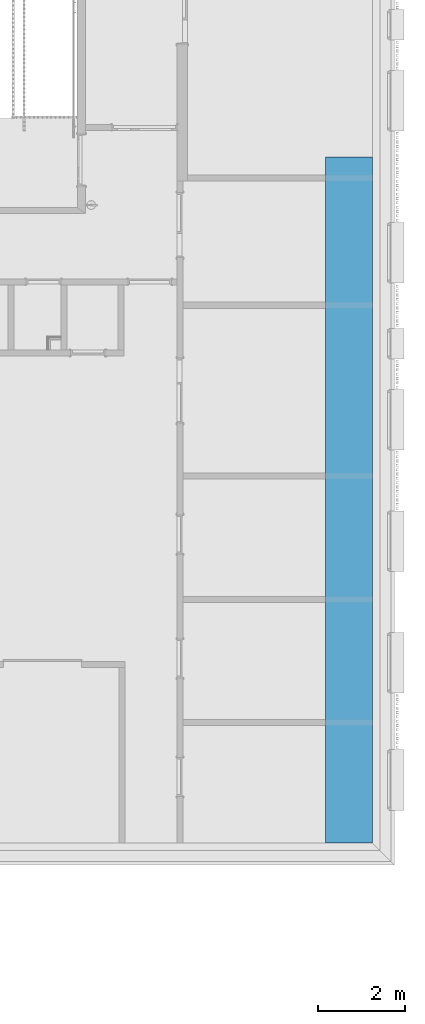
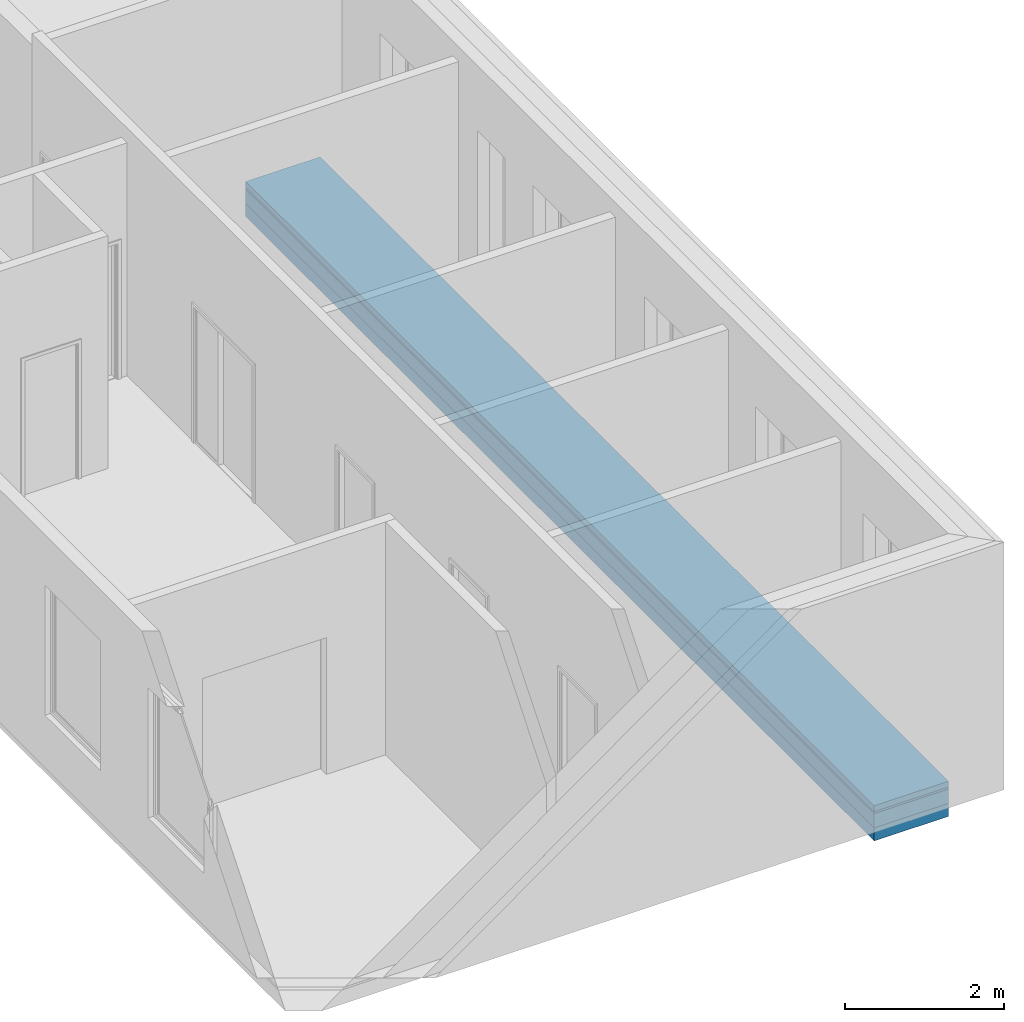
# One storey, part 37 of 100: 4 building element parts, 1 element without a shape of its own.
"""IFC2X3 building model written with IfcOpenShell, lengths in millimetres."""

from ifc_helpers import new_model, entity, si_unit, converted_unit, derived_unit, money_unit, direction, frame, origin_with_axes, place, context, subcontext, project, spatial, polyline, outline, extrude, material, type_object, element, aggregate, save


model = new_model("IFC2X3")

# Units and contexts
model_context = context("Model", 3, precision=0.01, world=origin_with_axes(), true_north=direction((0.0, 1.0)))
body_context = subcontext(model_context, "Body", "Model", "MODEL_VIEW")
ifc_project = project(units=[si_unit("LENGTHUNIT", "METRE", prefix="MILLI"), si_unit("AREAUNIT", "SQUARE_METRE"), si_unit("VOLUMEUNIT", "CUBIC_METRE"), converted_unit("PLANEANGLEUNIT", "DEGREE", entity("IfcPlaneAngleMeasure", 0.0174532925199), si_unit("PLANEANGLEUNIT", "RADIAN"), dimensions=[0, 0, 0, 0, 0, 0, 0]), si_unit("SOLIDANGLEUNIT", "STERADIAN"), money_unit("EUR"), converted_unit("TIMEUNIT", "Year", entity("IfcTimeMeasure", 31556926.0), si_unit("TIMEUNIT", "SECOND"), dimensions=[0, 0, 1, 0, 0, 0, 0]), si_unit("MASSUNIT", "GRAM", prefix="KILO"), si_unit("THERMODYNAMICTEMPERATUREUNIT", "DEGREE_CELSIUS"), si_unit("LUMINOUSINTENSITYUNIT", "LUMEN"), si_unit("ENERGYUNIT", "JOULE", prefix="MEGA"), derived_unit("THERMALCONDUCTANCEUNIT", [(si_unit("POWERUNIT", "WATT"), 1), (si_unit("LENGTHUNIT", "METRE"), -1), (si_unit("THERMODYNAMICTEMPERATUREUNIT", "KELVIN"), -1)]), derived_unit("SPECIFICHEATCAPACITYUNIT", [(si_unit("ENERGYUNIT", "JOULE"), 1), (si_unit("MASSUNIT", "GRAM", prefix="KILO"), -1), (si_unit("THERMODYNAMICTEMPERATUREUNIT", "KELVIN"), -1)]), derived_unit("MASSDENSITYUNIT", [(si_unit("MASSUNIT", "GRAM", prefix="KILO"), 1), (si_unit("VOLUMEUNIT", "CUBIC_METRE"), -1)])], contexts=[model_context])

# Site, building, storey
site_placement = place(None, origin_with_axes())
site = spatial("IfcSite", under=ifc_project, at=site_placement, Name="Politse- ja Piirivalveameti ning Päästeameti ühishoone", CompositionType="ELEMENT")
building_placement = place(site_placement, origin_with_axes())
building = spatial("IfcBuilding", under=site, at=building_placement, Name="Politse- ja Piirivalveameti ning Päästeameti ühishoone", CompositionType="ELEMENT")
storey_placement = place(building_placement, frame((0.0, 0.0, 3800.0), z_axis=(0.0, 0.0, 1.0), x_axis=(1.0, 0.0, 0.0)))
storey = spatial("IfcBuildingStorey", under=building, at=storey_placement, Name="Teine korrus", CompositionType="ELEMENT", Elevation=3800.0)

# Slab, building element parts
slab_type = type_object("IfcSlabType", Name="VL-03_Vahelagi 540", PredefinedType="NOTDEFINED")
slab_placement = place(storey_placement, frame((68580.5638285, 15802.809139, 0.0), z_axis=(0.0, 0.0, 1.0), x_axis=(1.0, 0.0, 0.0)))
slab = element("IfcSlab", 1, at=slab_placement, inside=storey, type_object=slab_type, Name="VL-03", PredefinedType="NOTDEFINED")
ifc_material_1 = material(Name="SOJ-02_Soojustus - Fiiber Kõva")
building_element_part_1_placement = place(slab_placement, origin_with_axes())
building_element_part_1 = element("IfcBuildingElementPart", 2, at=building_element_part_1_placement, material=ifc_material_1, Name="SOJ-02_Soojustus - Fiiber Kõva", context=body_context, shape_type="SweptSolid", body=[
    extrude(outline(polyline([(0.0, 0.0), (0.0, -15802.809139), (1080.00259722, -15802.809139), (1080.00259722, 0.0), (0.0, 0.0)])), frame((0.0, 0.0, -540.0), z_axis=(0.0, 0.0, 1.0), x_axis=(1.0, 0.0, 0.0)), (0.0, 0.0, 1.0), 200.0),
])
ifc_material_2 = material(Name="KON-06_Raudbetoon - Konstruktsioon")
building_element_part_2_placement = place(slab_placement, origin_with_axes())
building_element_part_2 = element("IfcBuildingElementPart", 3, at=building_element_part_2_placement, material=ifc_material_2, Name="KON-06_Raudbetoon - Konstruktsioon", context=body_context, shape_type="SweptSolid", body=[
    extrude(outline(polyline([(0.0, 0.0), (0.0, -15802.809139), (1080.00259722, -15802.809139), (1080.00259722, 0.0), (0.0, 0.0)])), frame((0.0, 0.0, -340.0), z_axis=(0.0, 0.0, 1.0), x_axis=(1.0, 0.0, 0.0)), (0.0, 0.0, 1.0), 220.0),
])
ifc_material_3 = material(Name="SOJ-04_Soojustus - Mineraal Kõva")
building_element_part_3_placement = place(slab_placement, origin_with_axes())
building_element_part_3 = element("IfcBuildingElementPart", 4, at=building_element_part_3_placement, material=ifc_material_3, Name="SOJ-04_Soojustus - Mineraal Kõva", context=body_context, shape_type="SweptSolid", body=[
    extrude(outline(polyline([(0.0, 0.0), (0.0, -15802.809139), (1080.00259722, -15802.809139), (1080.00259722, 0.0), (0.0, 0.0)])), frame((0.0, 0.0, -120.0), z_axis=(0.0, 0.0, 1.0), x_axis=(1.0, 0.0, 0.0)), (0.0, 0.0, 1.0), 30.0),
])
ifc_material_4 = material(Name="VKR-01_Betoon")
building_element_part_4_placement = place(slab_placement, origin_with_axes())
building_element_part_4 = element("IfcBuildingElementPart", 5, at=building_element_part_4_placement, material=ifc_material_4, Name="VKR-01_Betoon", context=body_context, shape_type="SweptSolid", body=[
    extrude(outline(polyline([(0.0, 0.0), (0.0, -15802.809139), (1080.00259722, -15802.809139), (1080.00259722, 0.0), (0.0, 0.0)])), frame((0.0, 0.0, -90.0), z_axis=(0.0, 0.0, 1.0), x_axis=(1.0, 0.0, 0.0)), (0.0, 0.0, 1.0), 90.0),
])
aggregate(slab, [building_element_part_1, building_element_part_2, building_element_part_3, building_element_part_4])

save(model, "model.ifc")
